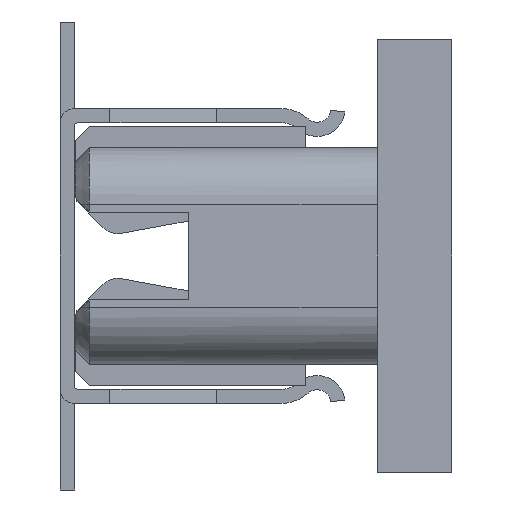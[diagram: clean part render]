
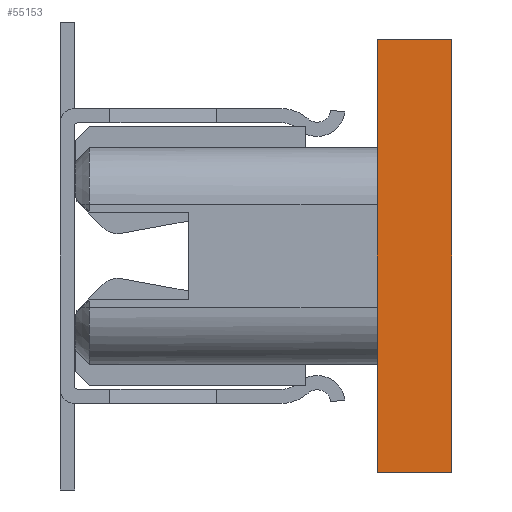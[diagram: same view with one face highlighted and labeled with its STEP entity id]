
A CAD part, left-side view. The second image highlights one B-rep face of the part: STEP entity #55153.
In plain terms, the highlighted planar face has unit normal (-1, 0, 0).
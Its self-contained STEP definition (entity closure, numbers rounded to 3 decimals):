
#5278=DIRECTION('',(0.,0.,-1.));
#5279=VECTOR('',#5278,6.1);
#5280=CARTESIAN_POINT('',(-17.95,1.05,3.05));
#5281=LINE('',#5280,#5279);
#19892=DIRECTION('',(0.,1.,0.));
#19893=VECTOR('',#19892,1.05);
#19894=CARTESIAN_POINT('',(-17.95,0.,-3.05));
#19895=LINE('',#19894,#19893);
#19896=DIRECTION('',(0.,1.,0.));
#19897=VECTOR('',#19896,1.05);
#19898=CARTESIAN_POINT('',(-17.95,0.,3.05));
#19899=LINE('',#19898,#19897);
#19920=DIRECTION('',(0.,0.,-1.));
#19921=VECTOR('',#19920,6.1);
#19922=CARTESIAN_POINT('',(-17.95,0.,3.05));
#19923=LINE('',#19922,#19921);
#20121=CARTESIAN_POINT('',(-17.95,1.05,3.05));
#20122=CARTESIAN_POINT('',(-17.95,1.05,-3.05));
#20123=VERTEX_POINT('',#20121);
#20124=VERTEX_POINT('',#20122);
#20129=CARTESIAN_POINT('',(-17.95,0.,3.05));
#20130=CARTESIAN_POINT('',(-17.95,0.,-3.05));
#20131=VERTEX_POINT('',#20129);
#20132=VERTEX_POINT('',#20130);
#55140=CARTESIAN_POINT('',(-17.95,1.05,-3.05));
#55141=DIRECTION('',(-1.,0.,0.));
#55142=DIRECTION('',(0.,0.,1.));
#55143=AXIS2_PLACEMENT_3D('',#55140,#55141,#55142);
#55144=PLANE('',#55143);
#55145=ORIENTED_EDGE('',*,*,#31106,.F.);
#55147=ORIENTED_EDGE('',*,*,#55146,.F.);
#55149=ORIENTED_EDGE('',*,*,#55148,.T.);
#55150=ORIENTED_EDGE('',*,*,#55129,.T.);
#55151=EDGE_LOOP('',(#55145,#55147,#55149,#55150));
#55152=FACE_OUTER_BOUND('',#55151,.F.);
#55153=ADVANCED_FACE('',(#55152),#55144,.T.);
#31106=EDGE_CURVE('',#20123,#20124,#5281,.T.);
#55129=EDGE_CURVE('',#20132,#20124,#19895,.T.);
#55146=EDGE_CURVE('',#20131,#20123,#19899,.T.);
#55148=EDGE_CURVE('',#20131,#20132,#19923,.T.);
